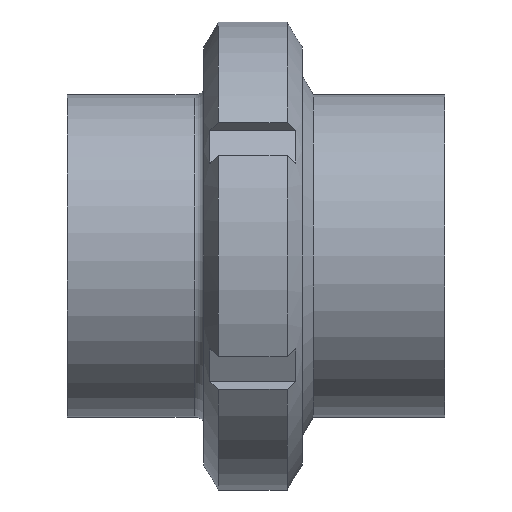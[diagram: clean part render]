
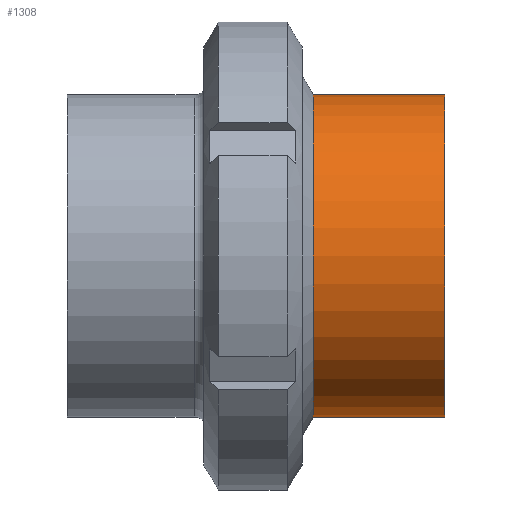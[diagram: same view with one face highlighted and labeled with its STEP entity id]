
A CAD part, left-side view. The second image highlights one B-rep face of the part: STEP entity #1308.
In plain terms, the highlighted cylindrical face has radius 50.8 mm (diameter 101.6 mm), a full revolution.
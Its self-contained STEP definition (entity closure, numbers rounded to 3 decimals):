
#79=CYLINDRICAL_SURFACE('',#1530,50.8);
#98=LINE('',#2201,#142);
#142=VECTOR('',#1788,50.8);
#246=FACE_OUTER_BOUND('',#317,.T.);
#317=EDGE_LOOP('',(#922,#923,#924,#925,#926,#927));
#416=CIRCLE('',#1528,50.8);
#417=CIRCLE('',#1529,50.8);
#418=CIRCLE('',#1531,50.8);
#419=CIRCLE('',#1532,50.8);
#529=VERTEX_POINT('',#2191);
#530=VERTEX_POINT('',#2192);
#531=VERTEX_POINT('',#2197);
#532=VERTEX_POINT('',#2198);
#682=EDGE_CURVE('',#529,#530,#416,.T.);
#683=EDGE_CURVE('',#530,#529,#417,.T.);
#685=EDGE_CURVE('',#531,#532,#418,.T.);
#686=EDGE_CURVE('',#532,#531,#419,.T.);
#687=EDGE_CURVE('',#532,#530,#98,.T.);
#922=ORIENTED_EDGE('',*,*,#685,.F.);
#923=ORIENTED_EDGE('',*,*,#686,.F.);
#924=ORIENTED_EDGE('',*,*,#687,.T.);
#925=ORIENTED_EDGE('',*,*,#683,.T.);
#926=ORIENTED_EDGE('',*,*,#682,.T.);
#927=ORIENTED_EDGE('',*,*,#687,.F.);
#1308=ADVANCED_FACE('',(#246),#79,.T.);
#1528=AXIS2_PLACEMENT_3D('',#2193,#1777,#1778);
#1529=AXIS2_PLACEMENT_3D('',#2194,#1779,#1780);
#1530=AXIS2_PLACEMENT_3D('',#2196,#1782,#1783);
#1531=AXIS2_PLACEMENT_3D('',#2199,#1784,#1785);
#1532=AXIS2_PLACEMENT_3D('',#2200,#1786,#1787);
#1777=DIRECTION('center_axis',(0.,-1.,0.));
#1778=DIRECTION('ref_axis',(1.,0.,0.));
#1779=DIRECTION('center_axis',(0.,-1.,0.));
#1780=DIRECTION('ref_axis',(1.,0.,0.));
#1782=DIRECTION('center_axis',(0.,-1.,0.));
#1783=DIRECTION('ref_axis',(1.,0.,0.));
#1784=DIRECTION('center_axis',(0.,-1.,0.));
#1785=DIRECTION('ref_axis',(1.,0.,0.));
#1786=DIRECTION('center_axis',(0.,-1.,0.));
#1787=DIRECTION('ref_axis',(1.,0.,0.));
#1788=DIRECTION('',(0.,1.,0.));
#2191=CARTESIAN_POINT('',(50.8,41.42,0.));
#2192=CARTESIAN_POINT('',(-50.8,41.42,0.));
#2193=CARTESIAN_POINT('Origin',(0.,41.42,0.));
#2194=CARTESIAN_POINT('Origin',(0.,41.42,0.));
#2196=CARTESIAN_POINT('Origin',(0.,20.71,0.));
#2197=CARTESIAN_POINT('',(50.8,0.,0.));
#2198=CARTESIAN_POINT('',(-50.8,0.,0.));
#2199=CARTESIAN_POINT('Origin',(0.,0.,0.));
#2200=CARTESIAN_POINT('Origin',(0.,0.,0.));
#2201=CARTESIAN_POINT('',(-50.8,20.71,0.));
